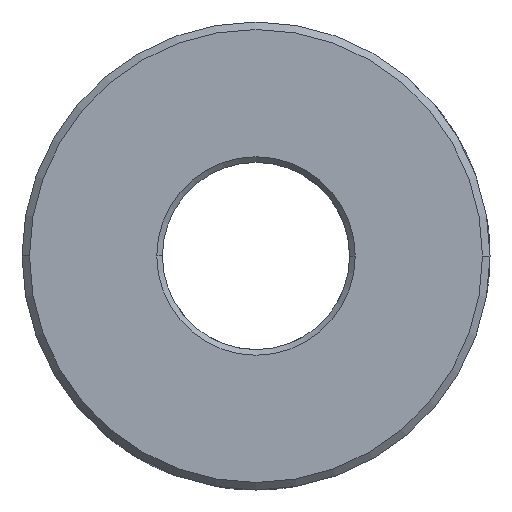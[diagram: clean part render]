
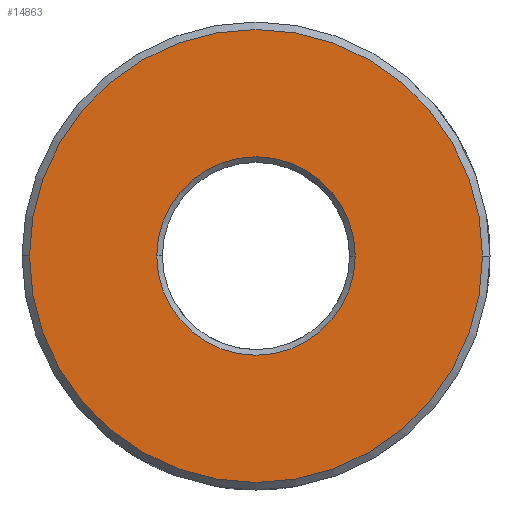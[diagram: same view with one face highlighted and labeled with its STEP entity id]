
A CAD part, front view. The second image highlights one B-rep face of the part: STEP entity #14863.
In plain terms, the highlighted planar face has unit normal (0, -1, 0) as drawn and (0, 1, 0) by its records, which use the part's own axes.
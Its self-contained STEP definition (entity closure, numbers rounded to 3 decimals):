
#21 = DIRECTION ( 'NONE',  ( 0., 1., 0. ) ) ;
#235 = VERTEX_POINT ( 'NONE', #9688 ) ;
#650 = PLANE ( 'NONE',  #12408 ) ;
#652 = ORIENTED_EDGE ( 'NONE', *, *, #7545, .F. ) ;
#992 = VERTEX_POINT ( 'NONE', #9006 ) ;
#1000 = ORIENTED_EDGE ( 'NONE', *, *, #1612, .F. ) ;
#1235 = FACE_BOUND ( 'NONE', #7225, .T. ) ;
#1425 = FACE_OUTER_BOUND ( 'NONE', #3001, .T. ) ;
#1612 = EDGE_CURVE ( 'NONE', #14380, #14628, #10405, .T. ) ;
#2133 = DIRECTION ( 'NONE',  ( 0., 0., 1. ) ) ;
#2414 = DIRECTION ( 'NONE',  ( 0., 0., 1. ) ) ;
#2495 = EDGE_CURVE ( 'NONE', #235, #992, #9489, .T. ) ;
#2560 = CIRCLE ( 'NONE', #8636, 5.3 ) ;
#3001 = EDGE_LOOP ( 'NONE', ( #14629, #9703 ) ) ;
#4578 = AXIS2_PLACEMENT_3D ( 'NONE', #8355, #10712, #2133 ) ;
#4786 = CARTESIAN_POINT ( 'NONE',  ( 0., 0.3, -5.3 ) ) ;
#5731 = CARTESIAN_POINT ( 'NONE',  ( 0., 0.3, 5.3 ) ) ;
#5982 = AXIS2_PLACEMENT_3D ( 'NONE', #9544, #11970, #13181 ) ;
#7225 = EDGE_LOOP ( 'NONE', ( #1000, #652 ) ) ;
#7226 = EDGE_CURVE ( 'NONE', #992, #235, #11857, .T. ) ;
#7545 = EDGE_CURVE ( 'NONE', #14628, #14380, #2560, .T. ) ;
#8355 = CARTESIAN_POINT ( 'NONE',  ( 0., 0.3, 0. ) ) ;
#8538 = DIRECTION ( 'NONE',  ( 0., 1., 0. ) ) ;
#8636 = AXIS2_PLACEMENT_3D ( 'NONE', #10824, #21, #2414 ) ;
#9006 = CARTESIAN_POINT ( 'NONE',  ( 0., 0.3, 12.1 ) ) ;
#9247 = DIRECTION ( 'NONE',  ( 0., 0., 1. ) ) ;
#9294 = CARTESIAN_POINT ( 'NONE',  ( -5.3, 0.3, 0. ) ) ;
#9489 = CIRCLE ( 'NONE', #5982, 12.1 ) ;
#9544 = CARTESIAN_POINT ( 'NONE',  ( 0., 0.3, 0. ) ) ;
#9688 = CARTESIAN_POINT ( 'NONE',  ( 0., 0.3, -12.1 ) ) ;
#9703 = ORIENTED_EDGE ( 'NONE', *, *, #7226, .T. ) ;
#10405 = CIRCLE ( 'NONE', #10911, 5.3 ) ;
#10712 = DIRECTION ( 'NONE',  ( 0., 1., 0. ) ) ;
#10824 = CARTESIAN_POINT ( 'NONE',  ( 0., 0.3, 0. ) ) ;
#10911 = AXIS2_PLACEMENT_3D ( 'NONE', #12129, #8538, #14610 ) ;
#11857 = CIRCLE ( 'NONE', #4578, 12.1 ) ;
#11970 = DIRECTION ( 'NONE',  ( 0., 1., 0. ) ) ;
#12129 = CARTESIAN_POINT ( 'NONE',  ( 0., 0.3, 0. ) ) ;
#12408 = AXIS2_PLACEMENT_3D ( 'NONE', #9294, #14152, #9247 ) ;
#13181 = DIRECTION ( 'NONE',  ( 0., 0., 1. ) ) ;
#14152 = DIRECTION ( 'NONE',  ( 0., 1., 0. ) ) ;
#14380 = VERTEX_POINT ( 'NONE', #5731 ) ;
#14610 = DIRECTION ( 'NONE',  ( 0., 0., 1. ) ) ;
#14628 = VERTEX_POINT ( 'NONE', #4786 ) ;
#14629 = ORIENTED_EDGE ( 'NONE', *, *, #2495, .T. ) ;
#14863 = ADVANCED_FACE ( 'NONE', ( #1425, #1235 ), #650, .T. ) ;
